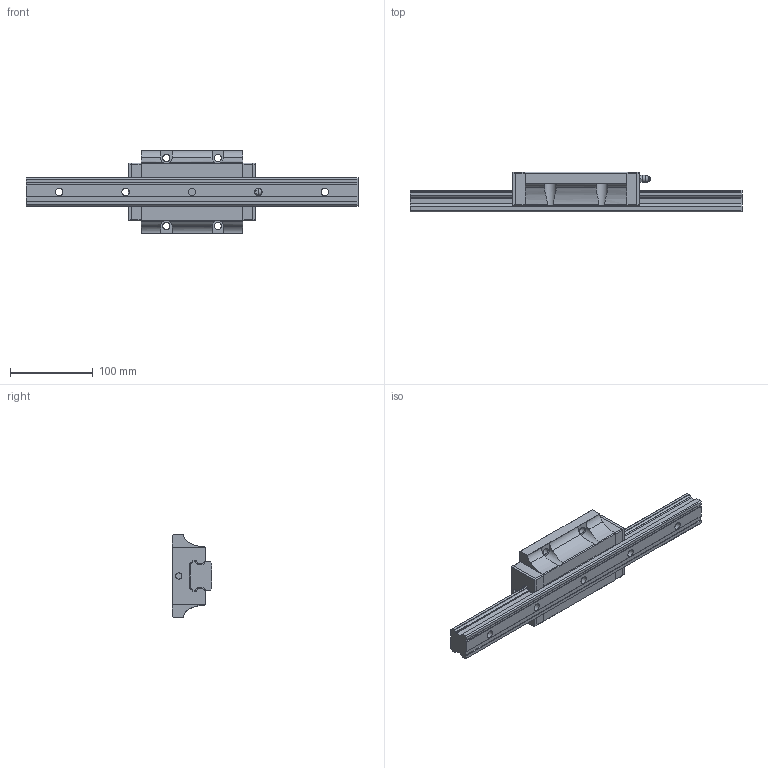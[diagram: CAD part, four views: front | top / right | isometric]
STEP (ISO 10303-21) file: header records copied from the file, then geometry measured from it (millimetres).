
FILE_DESCRIPTION((''),'2;1');
FILE_NAME('C:\Documents and Settings\土屋\My Documents\土屋移動用フォルダ\製品 (図面)\カタログ用3D\リニアガイド\EGH-FL\EGH35FL.stp','2015-12-16T09:25:22',('y'),(''),'Autodesk Inventor 11','Autodesk Inventor 11','');
FILE_SCHEMA(('AUTOMOTIVE_DESIGN { 1 0 10303 214 1 1 1 1 }'));
Length unit declared in the file: millimetre
Products named in the file (3): EGH35FL; EGH35FLレール; EGH35FLキャリッジ
Assembly tree (2 placements, depth 2):
  EGH35FL
    EGH35FLレール
    EGH35FLキャリッジ
Bounding box: 400 x 48 x 100 mm (x, y, z)
Volume: 704819.9 mm3; surface area: 125441.7 mm2
Topology: 7 solids, 7 shells, 333 faces, 908 edges, 597 vertices
Faces by surface type: plane 193, cylinder 108, cone 16, bspline 14, torus 1, sphere 1
Full cylindrical faces by diameter (mm): 6 x1, 7.5 x4, 7.75 x1, 8 x1, 8.6 x4, 9 x5, 14 x5
Entity records: 11192 total; most frequent: CARTESIAN_POINT 2671, ORIENTED_EDGE 1752, DIRECTION 1734, EDGE_CURVE 876, VERTEX_POINT 591, VECTOR 584, LINE 584, AXIS2_PLACEMENT_3D 575
